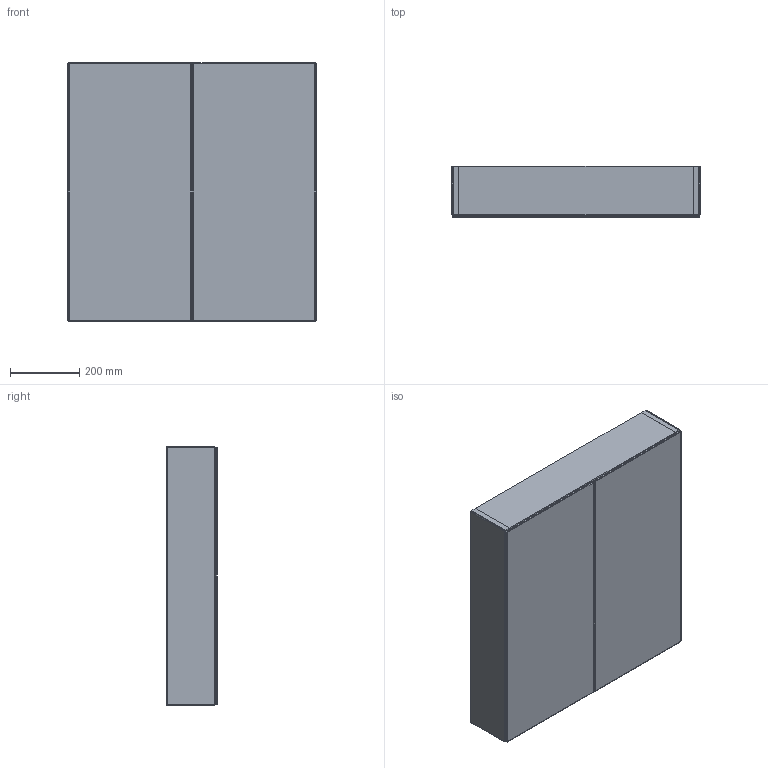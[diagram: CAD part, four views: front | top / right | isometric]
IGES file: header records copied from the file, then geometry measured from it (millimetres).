
Start section: Data from Parasolid IGES Translator 19.0.9, Copyright(c) 2006 Siemens PL M Software. All Rights Reserved.
Global section: file name: noorth-mirror-H 75 D 14,7 W 72_9061.igs; native system: By Siemens PLM Incorporated; preprocessor: XPlus GENERIC/IGES 19.0.9; author: Noname; organization: Noname; date: 20200519.095556; units: metre
Bounding box: 719.82 x 147 x 750 mm (x, y, z)
Volume: 13198844.7 mm3; surface area: 3815022.3 mm2
Topology: 12 solids, 12 shells, 196 faces, 372 edges, 200 vertices
Faces by surface type: plane 196
